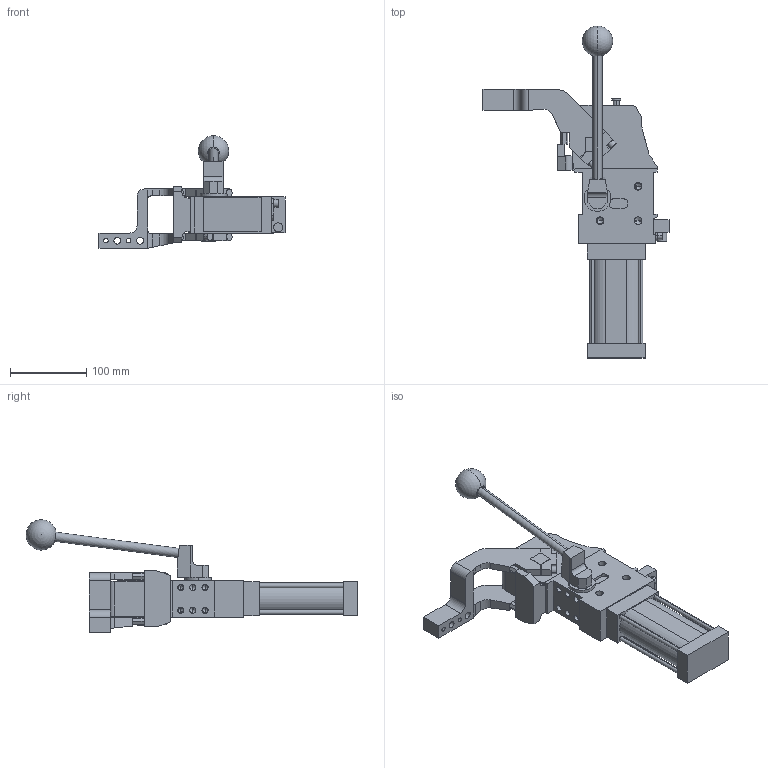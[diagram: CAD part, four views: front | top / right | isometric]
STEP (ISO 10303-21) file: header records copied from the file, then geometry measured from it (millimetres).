
FILE_DESCRIPTION (( 'STEP AP214' ), '1' );
FILE_NAME ('cplm50latv3di1g_135.STEP', '2023-01-26T14:26:23', ( '' ), ( '' ), 'SwSTEP 2.0', 'SolidWorks 2022', '' );
FILE_SCHEMA (( 'AUTOMOTIVE_DESIGN' ));
Length unit declared in the file: millimetre
Products named in the file (5): blocchetto_VEP_0; meccanica_cplm_50_tassello_esterno; cplm50latv3di1g_135; comando_manuale_cplm_50; leva_v3d_cpl50t
Assembly tree (4 placements, depth 2):
  cplm50latv3di1g_135
    meccanica_cplm_50_tassello_esterno
    blocchetto_VEP_0
    leva_v3d_cpl50t
    comando_manuale_cplm_50
Bounding box: 244.5 x 436.23 x 148 mm (x, y, z)
Volume: 1515111.3 mm3; surface area: 191986.9 mm2
Topology: 4 solids, 4 shells, 466 faces, 1207 edges, 757 vertices
Faces by surface type: plane 245, cylinder 169, cone 50, sphere 2
Entity records: 15482 total; most frequent: CARTESIAN_POINT 2483, DIRECTION 2443, ORIENTED_EDGE 2312, EDGE_CURVE 1156, AXIS2_PLACEMENT_3D 828, VECTOR 787, LINE 787, VERTEX_POINT 754
